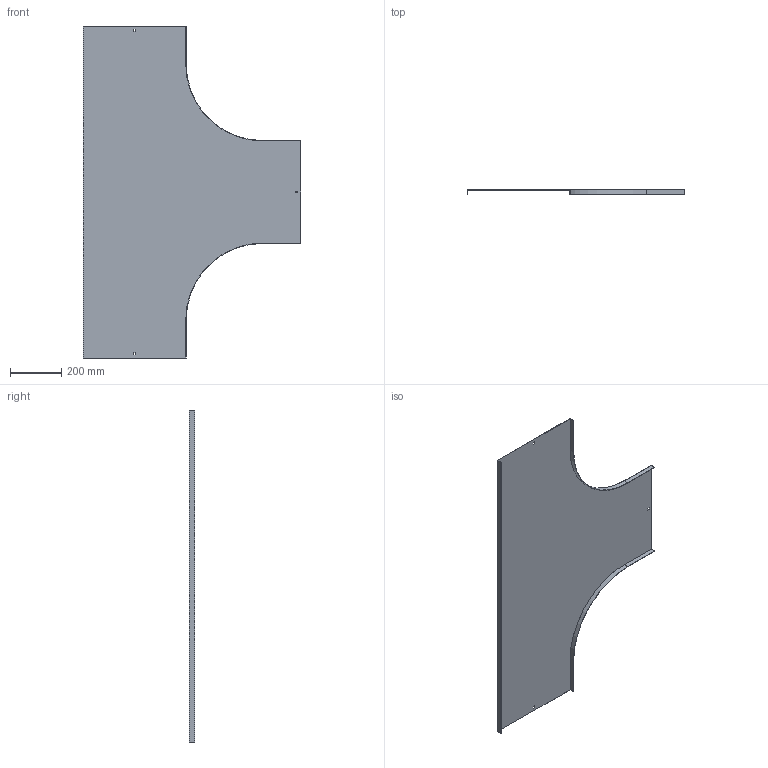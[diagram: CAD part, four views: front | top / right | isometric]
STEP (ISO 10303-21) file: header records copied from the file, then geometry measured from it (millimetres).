
FILE_DESCRIPTION (( 'STEP AP214' ), '1' );
FILE_NAME ('A2_15N3R400.step', '2025-02-21T12:06:34', ( '' ), ( '' ), 'SwSTEP 2.0', 'SolidWorks 2023', '' );
FILE_SCHEMA (( 'AUTOMOTIVE_DESIGN' ));
Length unit declared in the file: millimetre
Products named in the file (1): A2_15N3R400
Bounding box: 851.5 x 20 x 1300 mm (x, y, z)
Volume: 1192882.9 mm3; surface area: 1596886.7 mm2
Topology: 1 solids, 1 shells, 34 faces, 96 edges, 64 vertices
Faces by surface type: plane 30, cylinder 4
Entity records: 1123 total; most frequent: CARTESIAN_POINT 195, ORIENTED_EDGE 192, DIRECTION 174, EDGE_CURVE 96, LINE 88, VECTOR 88, VERTEX_POINT 64, AXIS2_PLACEMENT_3D 43
